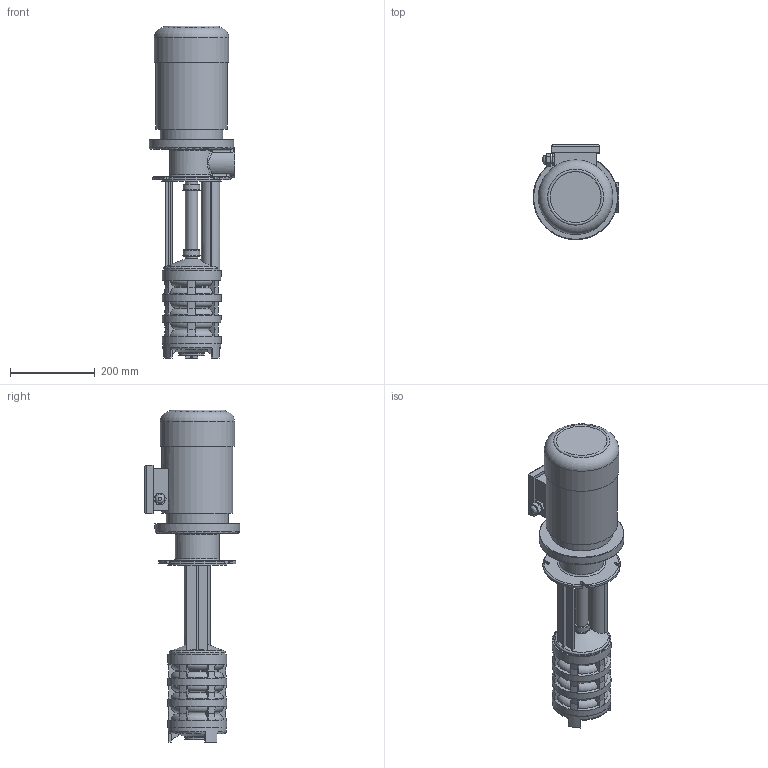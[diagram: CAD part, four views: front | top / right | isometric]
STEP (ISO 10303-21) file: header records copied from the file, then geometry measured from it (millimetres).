
FILE_DESCRIPTION(/* description */ ('Unknown'),/* implementation_level */ '2;1');
FILE_NAME(/* name */ 'gp4-420',/* time_stamp */ '2025-06-12T11:02:52+03:00',/* author */ ('Unknown'),/* organization */ ('Unknown'),/* preprocessor_version */ 'ST-DEVELOPER v16.7',/* originating_system */ 'DEX',/* authorisation */ $);
FILE_SCHEMA (('AUTOMOTIVE_DESIGN {1 0 10303 214 3 1 1}'));
Length unit declared in the file: millimetre
Products named in the file (1): gp4-420
Bounding box: 202 x 225 x 783.34 mm (x, y, z)
Volume: 11532235.7 mm3; surface area: 549454.4 mm2
Topology: 1 solids, 1 shells, 430 faces, 1128 edges, 731 vertices
Faces by surface type: plane 146, cylinder 86, bspline 84, cone 61, torus 53
Full cylindrical faces by diameter (mm): 17 x1, 21.5 x1, 29 x3, 33 x2, 35 x2, 39 x2, 40.5 x2, 45 x1, 47 x1, 60 x1, 137 x1, 139 x4, 140 x1, 168.001 x1, 176 x1, 200 x1
Entity records: 15841 total; most frequent: CARTESIAN_POINT 5836, ORIENTED_EDGE 2120, DIRECTION 1931, EDGE_CURVE 1060, AXIS2_PLACEMENT_3D 731, VERTEX_POINT 718, EDGE_LOOP 520, FACE_BOUND 520
